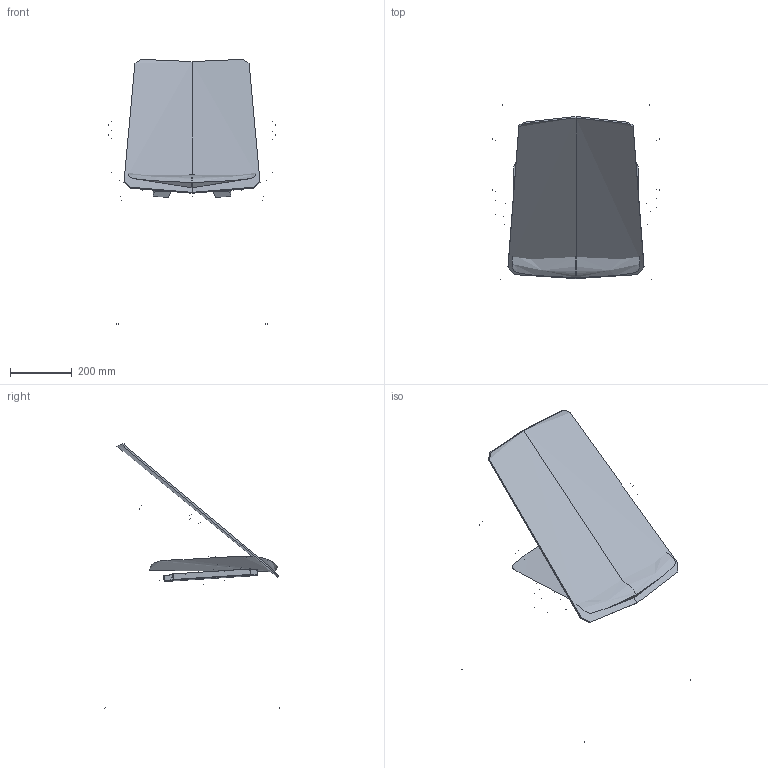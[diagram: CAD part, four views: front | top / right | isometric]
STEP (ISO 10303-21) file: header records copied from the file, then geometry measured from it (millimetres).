
FILE_DESCRIPTION(/* description */ (''),/* implementation_level */ '2;1');
FILE_NAME(/* name */ 'Evo 011-BR',/* time_stamp */ '2023-03-21T17:12:05+01:00',/* author */ (''),/* organization */ (''),/* preprocessor_version */ 'ST-DEVELOPER v16.5',/* originating_system */ 'Rhino 7.27',/* authorisation */ '');
FILE_SCHEMA (('CONFIG_CONTROL_DESIGN'));
Length unit declared in the file: millimetre
Products named in the file (1): Document
Bounding box: 540 x 569.47 x 862.02 mm (x, y, z)
Volume: 249489.7 mm3; surface area: 1363690.6 mm2
Topology: 4 solids, 22 shells, 94 faces, 202 edges, 128 vertices
Faces by surface type: bspline 44, plane 28, cylinder 22
Full cylindrical faces by diameter (mm): 18 x8, 22 x12, 24 x2
Entity records: 7339 total; most frequent: CARTESIAN_POINT 5948, ORIENTED_EDGE 360, EDGE_CURVE 198, VERTEX_POINT 124, B_SPLINE_CURVE_WITH_KNOTS 104, ADVANCED_FACE 94, FACE_OUTER_BOUND 94, EDGE_LOOP 94
